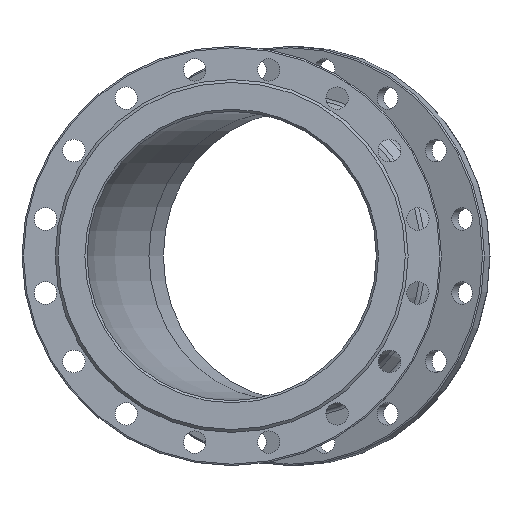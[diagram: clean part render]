
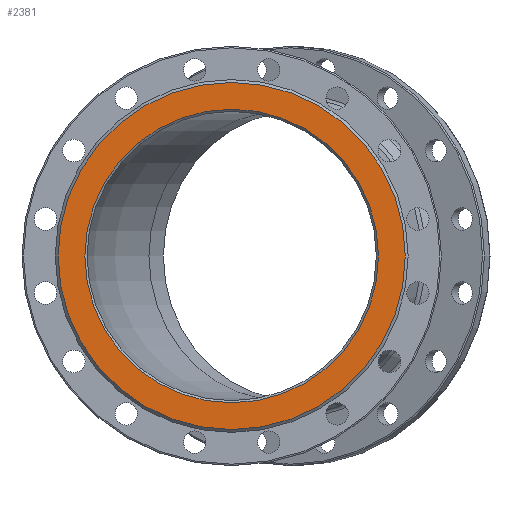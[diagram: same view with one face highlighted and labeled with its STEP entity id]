
A CAD part, left-side view. The second image highlights one B-rep face of the part: STEP entity #2381.
In plain terms, the highlighted planar face has unit normal (-1, 0, 0).
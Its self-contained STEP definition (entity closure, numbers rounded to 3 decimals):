
#160 = EDGE_CURVE ( 'NONE', #3575, #3575, #4446, .T. ) ;
#190 = CIRCLE ( 'NONE', #3284, 240. ) ;
#788 = CARTESIAN_POINT ( 'NONE',  ( -239., 203., 0. ) ) ;
#861 = CARTESIAN_POINT ( 'NONE',  ( -239., 240., 0. ) ) ;
#868 = ORIENTED_EDGE ( 'NONE', *, *, #160, .T. ) ;
#988 = CARTESIAN_POINT ( 'NONE',  ( -239., 0., 0. ) ) ;
#1197 = VERTEX_POINT ( 'NONE', #861 ) ;
#1424 = DIRECTION ( 'NONE',  ( 0., 1., 0. ) ) ;
#1636 = EDGE_CURVE ( 'NONE', #1197, #1197, #190, .T. ) ;
#2032 = PLANE ( 'NONE',  #2951 ) ;
#2174 = DIRECTION ( 'NONE',  ( 0., 1., 0. ) ) ;
#2189 = DIRECTION ( 'NONE',  ( 1., 0., 0. ) ) ;
#2381 = ADVANCED_FACE ( 'NONE', ( #3572, #4714 ), #2032, .F. ) ;
#2418 = DIRECTION ( 'NONE',  ( 1., 0., 0. ) ) ;
#2571 = AXIS2_PLACEMENT_3D ( 'NONE', #988, #2189, #1424 ) ;
#2941 = EDGE_LOOP ( 'NONE', ( #868 ) ) ;
#2951 = AXIS2_PLACEMENT_3D ( 'NONE', #4038, #2418, #4333 ) ;
#3284 = AXIS2_PLACEMENT_3D ( 'NONE', #4830, #4881, #2174 ) ;
#3572 = FACE_BOUND ( 'NONE', #2941, .T. ) ;
#3575 = VERTEX_POINT ( 'NONE', #788 ) ;
#4038 = CARTESIAN_POINT ( 'NONE',  ( -239., 0., 0. ) ) ;
#4125 = EDGE_LOOP ( 'NONE', ( #4200 ) ) ;
#4200 = ORIENTED_EDGE ( 'NONE', *, *, #1636, .F. ) ;
#4333 = DIRECTION ( 'NONE',  ( 0., 1., 0. ) ) ;
#4446 = CIRCLE ( 'NONE', #2571, 203. ) ;
#4714 = FACE_OUTER_BOUND ( 'NONE', #4125, .T. ) ;
#4830 = CARTESIAN_POINT ( 'NONE',  ( -239., 0., 0. ) ) ;
#4881 = DIRECTION ( 'NONE',  ( 1., 0., 0. ) ) ;
